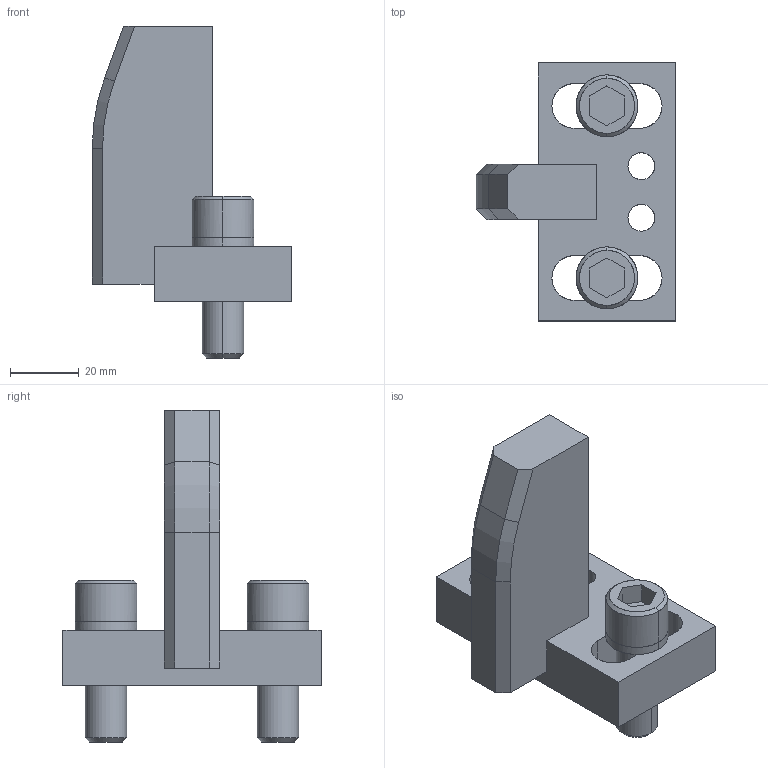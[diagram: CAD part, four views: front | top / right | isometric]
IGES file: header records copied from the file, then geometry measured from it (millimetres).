
Global section: file name: E:\UnigraphicsGraphicData\MISUMI_PRESS-PARTS\IGES\3d_ngwka-80-25-s35-k20-m12_01602_r00.igs; native system: NX V5.0; preprocessor: UGS NX IGES V5.0; author: MISUMI; date: 20110105.162121; units: millimetre
Bounding box: 58 x 75 x 96.5 mm (x, y, z)
Surface area: 26501.9 mm2 (no closed solid volume)
Topology: 0 solids, 0 shells, 104 faces, 664 edges, 664 vertices
Faces by surface type: bspline 104
